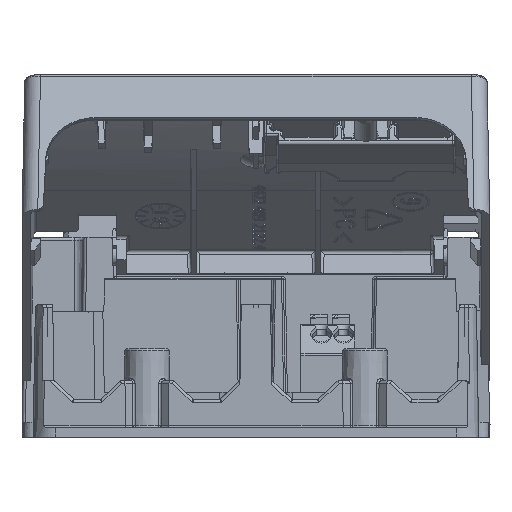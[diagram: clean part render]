
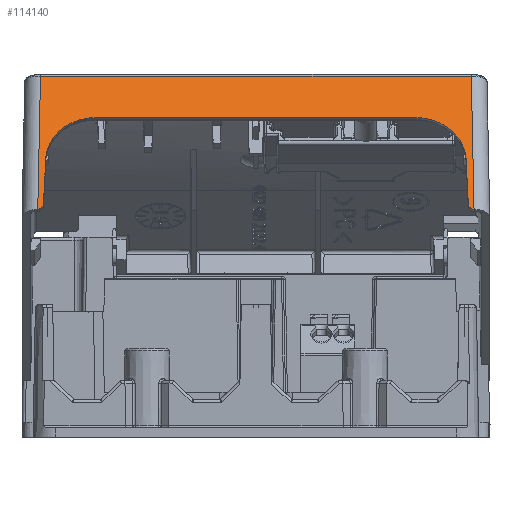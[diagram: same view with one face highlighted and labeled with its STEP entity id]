
A CAD part, left-side view. The second image highlights one B-rep face of the part: STEP entity #114140.
In plain terms, the highlighted planar face has unit normal (-0.857, 0, 0.515).
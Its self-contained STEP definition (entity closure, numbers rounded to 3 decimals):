
#4791=ELLIPSE('',#121422,1.,1.);
#4792=ELLIPSE('',#121426,8.001,8.);
#4793=ELLIPSE('',#121430,1.,1.);
#4794=ELLIPSE('',#121433,8.001,8.);
#10093=FACE_OUTER_BOUND('',#16396,.T.);
#16396=EDGE_LOOP('',(#86521,#86522,#86523,#86524,#86525,#86526,#86527,#86528,
#86529,#86530));
#26860=LINE('',#182623,#37656);
#26863=LINE('',#182631,#37659);
#26866=LINE('',#182642,#37662);
#26868=LINE('',#182646,#37664);
#26869=LINE('',#182648,#37665);
#26870=LINE('',#182649,#37666);
#37656=VECTOR('',#139920,10.);
#37659=VECTOR('',#139929,10.);
#37662=VECTOR('',#139940,10.);
#37664=VECTOR('',#139944,10.);
#37665=VECTOR('',#139945,10.);
#37666=VECTOR('',#139946,10.);
#48400=VERTEX_POINT('',#182615);
#48401=VERTEX_POINT('',#182617);
#48402=VERTEX_POINT('',#182621);
#48403=VERTEX_POINT('',#182625);
#48404=VERTEX_POINT('',#182629);
#48406=VERTEX_POINT('',#182635);
#48407=VERTEX_POINT('',#182637);
#48408=VERTEX_POINT('',#182641);
#48409=VERTEX_POINT('',#182645);
#48410=VERTEX_POINT('',#182647);
#61837=EDGE_CURVE('',#48400,#48401,#4791,.T.);
#61840=EDGE_CURVE('',#48400,#48402,#26860,.T.);
#61842=EDGE_CURVE('',#48403,#48402,#4792,.T.);
#61844=EDGE_CURVE('',#48403,#48404,#26863,.F.);
#61847=EDGE_CURVE('',#48406,#48407,#4793,.T.);
#61849=EDGE_CURVE('',#48408,#48407,#26866,.T.);
#61851=EDGE_CURVE('',#48409,#48406,#26868,.T.);
#61852=EDGE_CURVE('',#48410,#48409,#26869,.T.);
#61853=EDGE_CURVE('',#48401,#48410,#26870,.T.);
#61854=EDGE_CURVE('',#48408,#48404,#4794,.T.);
#86521=ORIENTED_EDGE('',*,*,#61847,.F.);
#86522=ORIENTED_EDGE('',*,*,#61851,.F.);
#86523=ORIENTED_EDGE('',*,*,#61852,.F.);
#86524=ORIENTED_EDGE('',*,*,#61853,.F.);
#86525=ORIENTED_EDGE('',*,*,#61837,.F.);
#86526=ORIENTED_EDGE('',*,*,#61840,.T.);
#86527=ORIENTED_EDGE('',*,*,#61842,.F.);
#86528=ORIENTED_EDGE('',*,*,#61844,.T.);
#86529=ORIENTED_EDGE('',*,*,#61854,.F.);
#86530=ORIENTED_EDGE('',*,*,#61849,.T.);
#103432=PLANE('',#121432);
#114140=ADVANCED_FACE('',(#10093),#103432,.T.);
#121422=AXIS2_PLACEMENT_3D('',#182618,#139913,#139914);
#121426=AXIS2_PLACEMENT_3D('',#182627,#139924,#139925);
#121430=AXIS2_PLACEMENT_3D('',#182638,#139935,#139936);
#121432=AXIS2_PLACEMENT_3D('',#182644,#139942,#139943);
#121433=AXIS2_PLACEMENT_3D('',#182650,#139947,#139948);
#139913=DIRECTION('center_axis',(0.857,0.,
-0.515));
#139914=DIRECTION('ref_axis',(-0.515,0.,
-0.857));
#139920=DIRECTION('',(0.515,-0.044,0.856));
#139924=DIRECTION('center_axis',(-0.857,0.,
0.515));
#139925=DIRECTION('ref_axis',(0.515,0.,0.857));
#139929=DIRECTION('',(0.,1.,0.));
#139935=DIRECTION('center_axis',(0.857,0.,
-0.515));
#139936=DIRECTION('ref_axis',(-0.515,0.,-0.857));
#139940=DIRECTION('',(-0.515,-0.044,-0.856));
#139942=DIRECTION('center_axis',(-0.857,0.,
0.515));
#139943=DIRECTION('ref_axis',(-0.515,0.,-0.857));
#139944=DIRECTION('',(-0.515,-0.017,-0.857));
#139945=DIRECTION('',(0.,-1.,0.));
#139946=DIRECTION('',(0.515,-0.017,0.857));
#139947=DIRECTION('center_axis',(-0.857,0.,
0.515));
#139948=DIRECTION('ref_axis',(0.515,0.,0.857));
#182615=CARTESIAN_POINT('',(-104.496,33.7,36.953));
#182617=CARTESIAN_POINT('',(-104.986,34.6,36.138));
#182618=CARTESIAN_POINT('Origin',(-104.473,34.7,36.991));
#182621=CARTESIAN_POINT('',(-100.173,33.334,44.148));
#182623=CARTESIAN_POINT('',(-99.816,33.304,44.741));
#182625=CARTESIAN_POINT('',(-96.231,25.342,50.707));
#182627=CARTESIAN_POINT('Origin',(-100.352,25.342,43.849));
#182629=CARTESIAN_POINT('',(-96.231,-25.342,50.707));
#182631=CARTESIAN_POINT('',(-96.231,-35.05,50.707));
#182635=CARTESIAN_POINT('',(-104.986,-34.6,36.138));
#182637=CARTESIAN_POINT('',(-104.496,-33.7,36.953));
#182638=CARTESIAN_POINT('Origin',(-104.473,-34.7,36.991));
#182641=CARTESIAN_POINT('',(-100.173,-33.334,44.148));
#182642=CARTESIAN_POINT('',(-105.022,-33.745,36.078));
#182644=CARTESIAN_POINT('Origin',(-104.988,-37.1,36.133));
#182645=CARTESIAN_POINT('',(-92.276,-34.17,57.29));
#182646=CARTESIAN_POINT('',(-104.729,-34.592,36.566));
#182647=CARTESIAN_POINT('',(-92.276,34.17,57.29));
#182648=CARTESIAN_POINT('',(-92.276,37.1,57.29));
#182649=CARTESIAN_POINT('',(-104.677,34.59,36.651));
#182650=CARTESIAN_POINT('Origin',(-100.352,-25.342,43.849));
